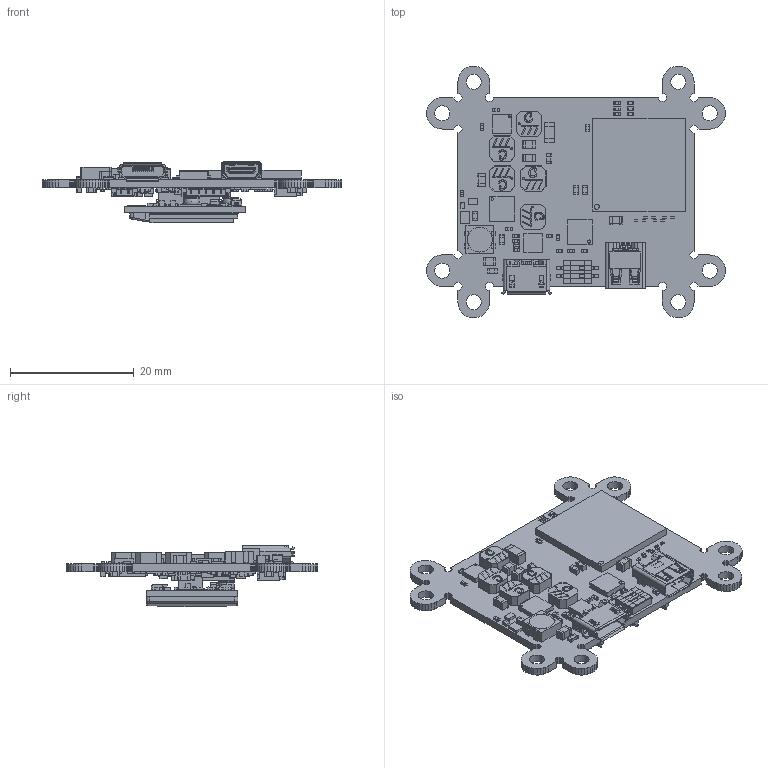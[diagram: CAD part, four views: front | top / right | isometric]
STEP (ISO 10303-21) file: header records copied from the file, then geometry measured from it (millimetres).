
FILE_DESCRIPTION(('Open CASCADE Model'),'2;1');
FILE_NAME('Open CASCADE Shape Model','2016-12-21T15:09:42',('Author'),( 'Open CASCADE'),'Open CASCADE STEP processor 6.5','Open CASCADE 6.5' ,'Unknown');
FILE_SCHEMA(('AUTOMOTIVE_DESIGN { 1 0 10303 214 1 1 1 1 }'));
Length unit declared in the file: millimetre
Products named in the file (455): PCB; Board; C69; 822475248; Extruded; 822475376; C68; C12; 822475504; 820346432; L11; 820345664; 820345920; 423842576; 797326624; Cylinder; 820346560; C67; 423845008; 423845264; U13; 797327824; 822475632; 822475760; 822471920; C66; 822474992; 822474864; A1; A04-501023-00_SXGA_-_096_Display_asm_-_2; A01-501022-00_PCB_asm_SXGA-096; C01-501021-00_PCB_-_SXGA-096; DF12(3.0)-30DP-0.5V; GRM155R61C104KA88D_Cap_0.1_uf; C1608X5R1A106M_Cap_10_uf; GRM155R71C103KA01D_Cap_0.01uf_-0402; MBR0520L_Diode_Schotky_Barrier_20V; 490-5176-2-ND_Ferrite_bead_10_ohm; BLM15AG100SN1D_Ferrite_bead_15_ohm; LQH32PN100MN0L_inductor_10uH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
Assembly tree (1296 placements, depth 5):
  PCB
    Board
    C69
      822475248
        Extruded
      822475376  x2
        Extruded
    C68
      822475248
        Extruded
      822475376  x2
        Extruded
    C12
      822475504
        Extruded
      820346432  x2
        Extruded
    L11
      820345664  x4
        Extruded
      820345920  x4
        Extruded
      423842576  x4
        Extruded
      797326624
        Cylinder
      820346560
        Extruded
    C67
      423845008
        Extruded
      423845264  x2
        Extruded
    U13
      797327824
        Cylinder
      822475632
        Extruded
      822475760  x6
        Extruded
      822471920
        Extruded
    C66
      822474992  x2
        Extruded
      822474864
        Extruded
    A1
      A04-501023-00_SXGA_-_096_Display_asm_-_2
        A01-501022-00_PCB_asm_SXGA-096
          C01-501021-00_PCB_-_SXGA-096
          DF12(3.0)-30DP-0.5V
          GRM155R61C104KA88D_Cap_0.1_uf  x11
          C1608X5R1A106M_Cap_10_uf  x5
          GRM155R71C103KA01D_Cap_0.01uf_-0402
          MBR0520L_Diode_Schotky_Barrier_20V
          490-5176-2-ND_Ferrite_bead_10_ohm  x6
          BLM15AG100SN1D_Ferrite_bead_15_ohm
          LQH32PN100MN0L_inductor_10uH  x2
          NDS351AN_FET_N_Channel
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Bounding box: 48.28 x 40.66 x 9.92 mm (x, y, z)
Volume: 3261.9 mm3; surface area: 9799.1 mm2
Topology: 999 solids, 999 shells, 11681 faces, 30042 edges, 20842 vertices
Faces by surface type: plane 10685, cylinder 769, sphere 154, bspline 49, cone 24
Full cylindrical faces by diameter (mm): 0.1 x3, 0.2 x2, 0.3 x1, 0.4 x4, 0.5 x1, 0.8 x1, 1 x1, 2.438 x8, 4 x1
Entity records: 476727 total; most frequent: CARTESIAN_POINT 101181, DIRECTION 67672, LINE 49594, VECTOR 49594, ORIENTED_EDGE 36030, PCURVE 36030, DEFINITIONAL_REPRESENTATION 36030, EDGE_CURVE 18015
